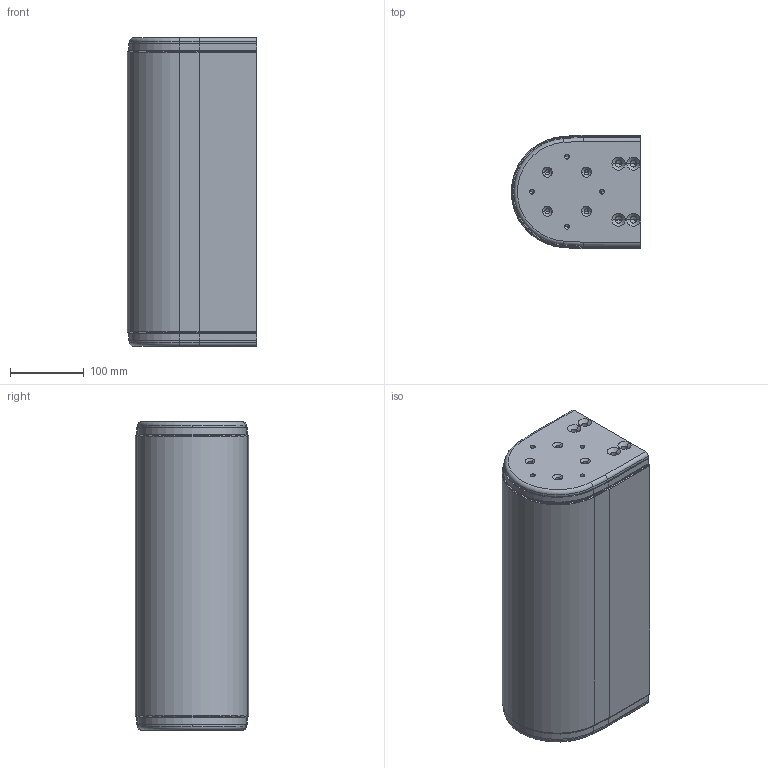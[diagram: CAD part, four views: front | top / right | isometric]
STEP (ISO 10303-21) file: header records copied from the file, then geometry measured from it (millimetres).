
FILE_DESCRIPTION (( 'STEP AP214' ), '1' );
FILE_NAME ('F2 1500 RP.step', '2017-04-05T06:48:23', ( '' ), ( '' ), 'SwSTEP 2.0', 'SolidWorks 2015', '' );
FILE_SCHEMA (( 'AUTOMOTIVE_DESIGN' ));
Length unit declared in the file: millimetre
Products named in the file (1): F2 1500 RP
Bounding box: 175.3 x 153.4 x 418 mm (x, y, z)
Volume: 10060110.3 mm3; surface area: 300415 mm2
Topology: 1 solids, 1 shells, 194 faces, 480 edges, 264 vertices
Faces by surface type: cone 80, cylinder 73, plane 37, torus 4
Entity records: 5811 total; most frequent: DIRECTION 980, CARTESIAN_POINT 915, ORIENTED_EDGE 864, EDGE_CURVE 432, AXIS2_PLACEMENT_3D 361, VERTEX_POINT 264, LINE 258, VECTOR 258
